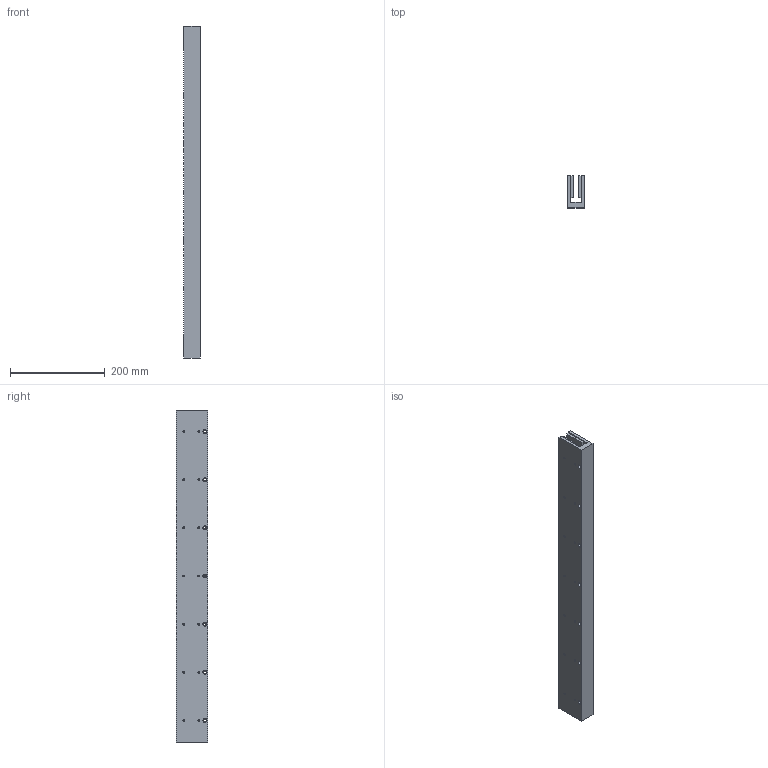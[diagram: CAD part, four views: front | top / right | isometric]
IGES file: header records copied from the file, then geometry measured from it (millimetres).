
Global section: file name: No Iges File Name specified; native system: Autodesk Inventor 2009; preprocessor: AutoDesk Inventor Iges Exporter R2009; author: je17857; date: 20091116.111518; units: inch
Bounding box: 34.29 x 67.31 x 701.04 mm (x, y, z)
Volume: 1048018.6 mm3; surface area: 264863.3 mm2
Topology: 1 solids, 1 shells, 366 faces, 870 edges, 580 vertices
Faces by surface type: plane 254, bspline 112
